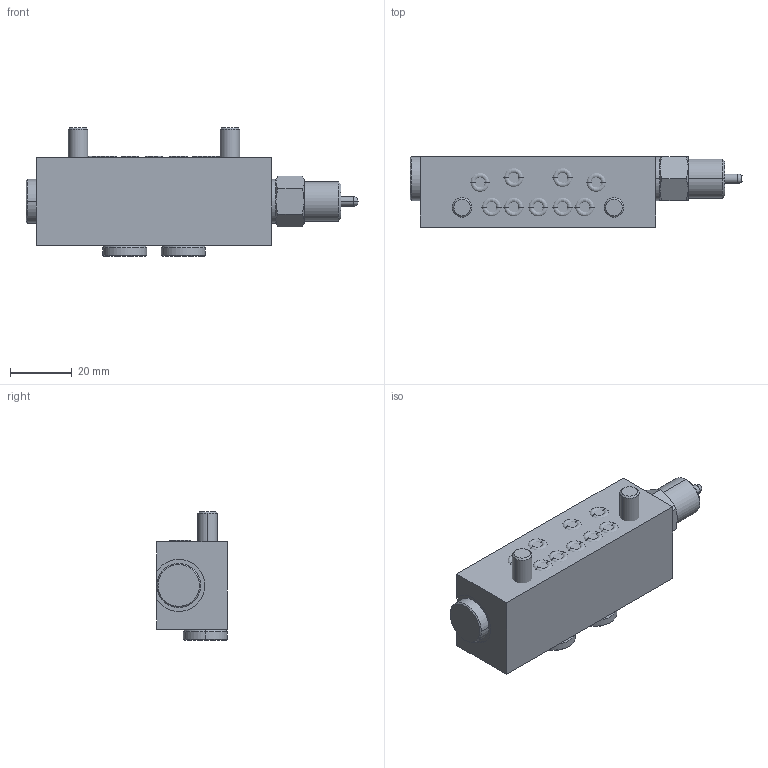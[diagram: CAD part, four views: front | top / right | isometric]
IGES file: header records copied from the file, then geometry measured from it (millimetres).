
Start section:  PTC IGES file: 562734-en-g.igs
Global section: file name: 562734-en-g.igs; native system: Creo Parametric by PTC Inc.; preprocessor: 2019030; author: qusrh3; organization: Unknown; date: 20191231.212216; units: inch
Bounding box: 107.59 x 22.86 x 41.66 mm (x, y, z)
Surface area: 13370.7 mm2 (no closed solid volume)
Topology: 0 solids, 0 shells, 88 faces, 356 edges, 356 vertices
Faces by surface type: revolution 66, bspline 22
